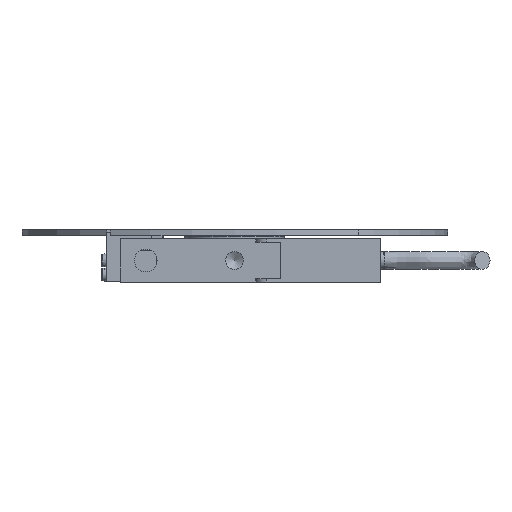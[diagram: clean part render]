
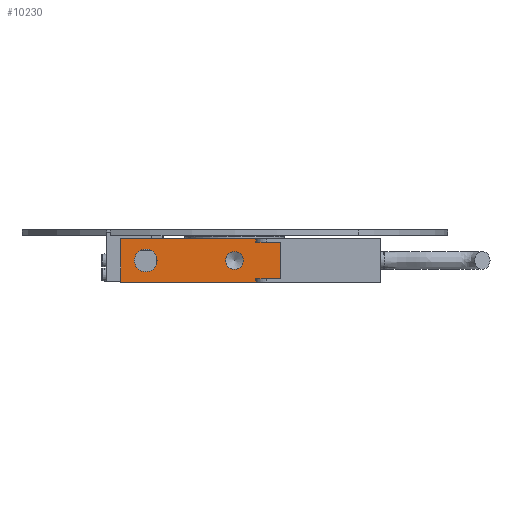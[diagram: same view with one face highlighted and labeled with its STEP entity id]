
A CAD part, front view. The second image highlights one B-rep face of the part: STEP entity #10230.
In plain terms, the highlighted planar face has unit normal (0, -1, 0) by its records, which use the part's own axes.
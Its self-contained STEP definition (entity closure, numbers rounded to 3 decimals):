
#492=LINE('',#14940,#1397);
#496=LINE('',#14949,#1401);
#501=LINE('',#14976,#1406);
#512=LINE('',#15041,#1417);
#514=LINE('',#15046,#1419);
#555=LINE('',#15156,#1460);
#556=LINE('',#15158,#1461);
#557=LINE('',#15159,#1462);
#1397=VECTOR('',#12111,1.);
#1401=VECTOR('',#12117,10.2);
#1406=VECTOR('',#12146,7.);
#1417=VECTOR('',#12191,1.);
#1419=VECTOR('',#12197,7.);
#1460=VECTOR('',#12306,38.);
#1461=VECTOR('',#12307,12.2);
#1462=VECTOR('',#12308,38.);
#2235=PLANE('',#10959);
#2613=FACE_BOUND('',#3531,.T.);
#2614=FACE_BOUND('',#3532,.T.);
#2891=FACE_OUTER_BOUND('',#3530,.T.);
#3530=EDGE_LOOP('',(#7596,#7597,#7598,#7599,#7600,#7601,#7602,#7603));
#3531=EDGE_LOOP('',(#7604));
#3532=EDGE_LOOP('',(#7605));
#4243=CIRCLE('',#10928,3.2);
#4245=CIRCLE('',#10932,2.459);
#4688=VERTEX_POINT('',#14937);
#4689=VERTEX_POINT('',#14939);
#4692=VERTEX_POINT('',#14946);
#4693=VERTEX_POINT('',#14948);
#4727=VERTEX_POINT('',#15038);
#4728=VERTEX_POINT('',#15040);
#4731=VERTEX_POINT('',#15051);
#4733=VERTEX_POINT('',#15057);
#4764=VERTEX_POINT('',#15155);
#4765=VERTEX_POINT('',#15157);
#5770=EDGE_CURVE('',#4689,#4688,#492,.T.);
#5774=EDGE_CURVE('',#4693,#4692,#496,.T.);
#5787=EDGE_CURVE('',#4688,#4693,#501,.T.);
#5813=EDGE_CURVE('',#4728,#4727,#512,.T.);
#5816=EDGE_CURVE('',#4692,#4728,#514,.T.);
#5819=EDGE_CURVE('',#4731,#4731,#4243,.T.);
#5821=EDGE_CURVE('',#4733,#4733,#4245,.T.);
#5869=EDGE_CURVE('',#4727,#4764,#555,.T.);
#5870=EDGE_CURVE('',#4765,#4764,#556,.T.);
#5871=EDGE_CURVE('',#4765,#4689,#557,.T.);
#7596=ORIENTED_EDGE('',*,*,#5787,.T.);
#7597=ORIENTED_EDGE('',*,*,#5774,.T.);
#7598=ORIENTED_EDGE('',*,*,#5816,.T.);
#7599=ORIENTED_EDGE('',*,*,#5813,.T.);
#7600=ORIENTED_EDGE('',*,*,#5869,.T.);
#7601=ORIENTED_EDGE('',*,*,#5870,.F.);
#7602=ORIENTED_EDGE('',*,*,#5871,.T.);
#7603=ORIENTED_EDGE('',*,*,#5770,.T.);
#7604=ORIENTED_EDGE('',*,*,#5819,.T.);
#7605=ORIENTED_EDGE('',*,*,#5821,.T.);
#10230=ADVANCED_FACE('',(#2891,#2613,#2614),#2235,.T.);
#10928=AXIS2_PLACEMENT_3D('',#15052,#12203,#12204);
#10932=AXIS2_PLACEMENT_3D('',#15058,#12211,#12212);
#10959=AXIS2_PLACEMENT_3D('',#15154,#12304,#12305);
#12111=DIRECTION('',(0.,0.,1.));
#12117=DIRECTION('',(0.,0.,1.));
#12146=DIRECTION('',(1.,0.,0.));
#12191=DIRECTION('',(0.,0.,1.));
#12197=DIRECTION('',(-1.,0.,0.));
#12203=DIRECTION('center_axis',(0.,1.,0.));
#12204=DIRECTION('ref_axis',(1.,0.,0.));
#12211=DIRECTION('center_axis',(0.,1.,0.));
#12212=DIRECTION('ref_axis',(1.,0.,0.));
#12304=DIRECTION('center_axis',(0.,-1.,0.));
#12305=DIRECTION('ref_axis',(0.,0.,-1.));
#12306=DIRECTION('',(-1.,0.,0.));
#12307=DIRECTION('',(0.,0.,1.));
#12308=DIRECTION('',(1.,0.,0.));
#14937=CARTESIAN_POINT('',(-15.321,-23.38,1.));
#14939=CARTESIAN_POINT('',(-15.321,-23.38,0.));
#14940=CARTESIAN_POINT('',(-15.321,-23.38,0.));
#14946=CARTESIAN_POINT('',(-8.321,-23.38,11.2));
#14948=CARTESIAN_POINT('',(-8.321,-23.38,1.));
#14949=CARTESIAN_POINT('',(-8.321,-23.38,0.));
#14976=CARTESIAN_POINT('',(-10.029,-23.38,1.));
#15038=CARTESIAN_POINT('',(-15.321,-23.38,12.2));
#15040=CARTESIAN_POINT('',(-15.321,-23.38,11.2));
#15041=CARTESIAN_POINT('',(-15.321,-23.38,6.1));
#15046=CARTESIAN_POINT('',(-10.029,-23.38,11.2));
#15051=CARTESIAN_POINT('',(-43.121,-23.38,6.1));
#15052=CARTESIAN_POINT('Origin',(-46.321,-23.38,6.1));
#15057=CARTESIAN_POINT('',(-18.863,-23.38,6.1));
#15058=CARTESIAN_POINT('Origin',(-21.321,-23.38,6.1));
#15154=CARTESIAN_POINT('Origin',(-8.321,-23.38,0.));
#15155=CARTESIAN_POINT('',(-53.321,-23.38,12.2));
#15156=CARTESIAN_POINT('',(-53.321,-23.38,12.2));
#15157=CARTESIAN_POINT('',(-53.321,-23.38,0.));
#15158=CARTESIAN_POINT('',(-53.321,-23.38,0.));
#15159=CARTESIAN_POINT('',(-53.321,-23.38,0.));
